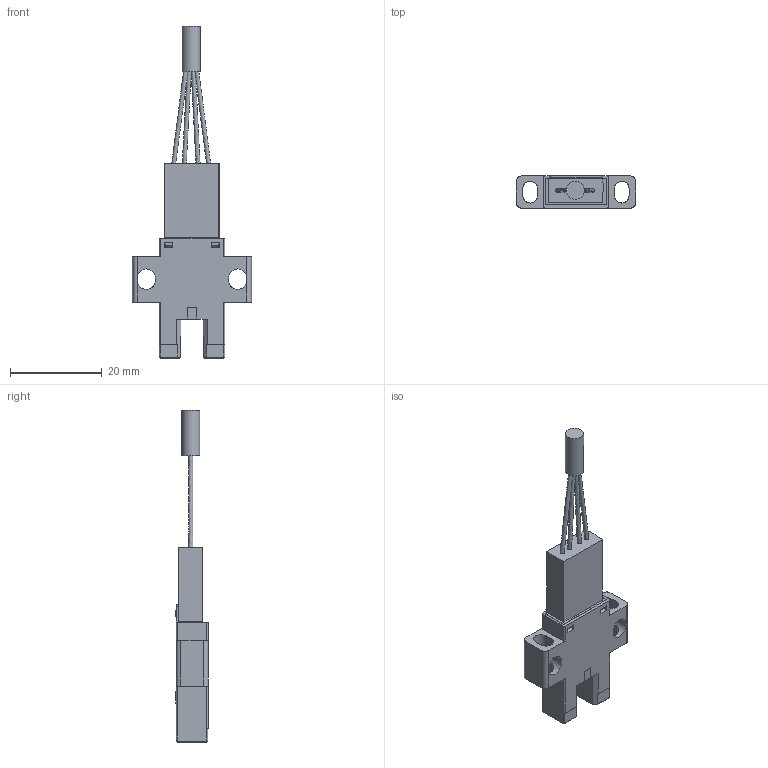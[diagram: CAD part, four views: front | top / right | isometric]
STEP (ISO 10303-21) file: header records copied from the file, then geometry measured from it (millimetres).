
FILE_DESCRIPTION(/* description */ (''),/* implementation_level */ '2;1');
FILE_NAME(/* name */ '306-接插件.stp',/* time_stamp */ '2016-12-22T15:36:05+08:00',/* author */ (''),/* organization */ (''),/* preprocessor_version */ 'ST-DEVELOPER v16',/* originating_system */ 'SIEMENS PLM Software NX 10.0',/* authorisation */ '');
FILE_SCHEMA (('AP203_CONFIGURATION_CONTROLLED_3D_DESIGN_OF_MECHANICAL_PARTS_AND_ASSEMBLIES_MIM_LF { 1 0 10303 403 2 1 2}'));
Length unit declared in the file: millimetre
Products named in the file (1): Gavi0C983A09kat3
Bounding box: 26 x 7.15 x 72.5 mm (x, y, z)
Volume: 2641.5 mm3; surface area: 5433.9 mm2
Topology: 12 solids, 13 shells, 533 faces, 1446 edges, 956 vertices
Faces by surface type: plane 436, cylinder 86, sphere 7, extrusion 4
Full cylindrical faces by diameter (mm): 0.8 x4, 1.5 x2, 4 x1
Entity records: 17021 total; most frequent: CARTESIAN_POINT 3345, ORIENTED_EDGE 2844, DIRECTION 2663, EDGE_CURVE 1422, VECTOR 1217, LINE 1213, VERTEX_POINT 948, AXIS2_PLACEMENT_3D 723
